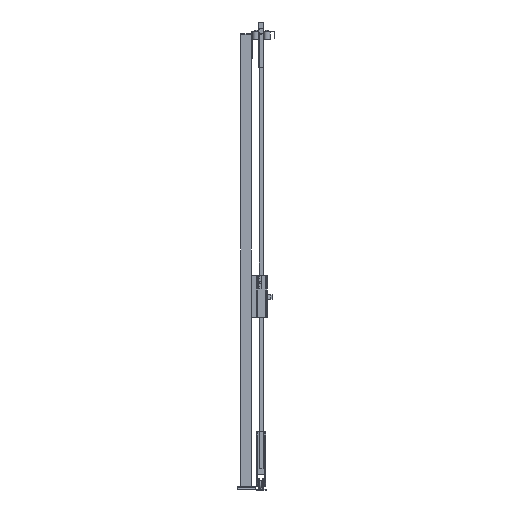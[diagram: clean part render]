
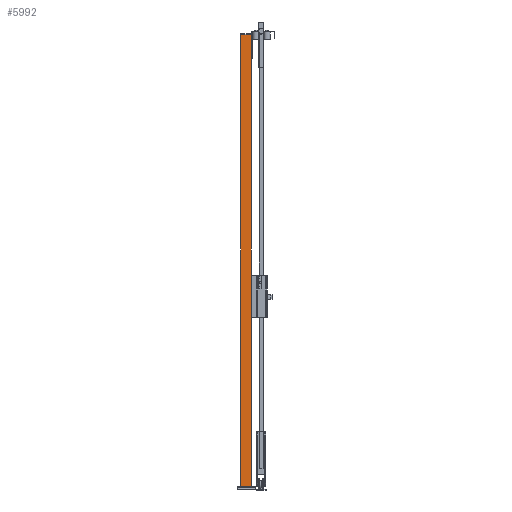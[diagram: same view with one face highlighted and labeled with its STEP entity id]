
A CAD part, left-side view. The second image highlights one B-rep face of the part: STEP entity #5992.
In plain terms, the highlighted planar face has unit normal (-1, 0, 0) as drawn and (0, 1, 0) by its records, which use the part's own axes.
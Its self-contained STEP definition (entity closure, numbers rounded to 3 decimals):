
#811=FACE_OUTER_BOUND('',#1114,.T.);
#1114=EDGE_LOOP('',(#4421,#4422,#4423,#4424));
#1581=LINE('',#8970,#2322);
#1587=LINE('',#8982,#2328);
#1590=LINE('',#8987,#2331);
#1591=LINE('',#8989,#2332);
#2322=VECTOR('',#7046,1.);
#2328=VECTOR('',#7054,1.);
#2331=VECTOR('',#7061,1.);
#2332=VECTOR('',#7064,1.);
#2936=VERTEX_POINT('',#8967);
#2937=VERTEX_POINT('',#8969);
#2939=VERTEX_POINT('',#8975);
#2942=VERTEX_POINT('',#8980);
#3530=EDGE_CURVE('',#2936,#2937,#1581,.T.);
#3536=EDGE_CURVE('',#2942,#2939,#1587,.T.);
#3539=EDGE_CURVE('',#2937,#2942,#1590,.T.);
#3540=EDGE_CURVE('',#2936,#2939,#1591,.T.);
#4421=ORIENTED_EDGE('',*,*,#3540,.T.);
#4422=ORIENTED_EDGE('',*,*,#3536,.F.);
#4423=ORIENTED_EDGE('',*,*,#3539,.F.);
#4424=ORIENTED_EDGE('',*,*,#3530,.F.);
#5739=PLANE('',#6344);
#5992=ADVANCED_FACE('',(#811),#5739,.F.);
#6344=AXIS2_PLACEMENT_3D('',#8988,#7062,#7063);
#7046=DIRECTION('',(-1.,0.,0.));
#7054=DIRECTION('',(1.,0.,0.));
#7061=DIRECTION('',(0.,0.,-1.));
#7062=DIRECTION('center_axis',(0.,-1.,0.));
#7063=DIRECTION('ref_axis',(0.,0.,-1.));
#7064=DIRECTION('',(0.,0.,-1.));
#8967=CARTESIAN_POINT('',(30.,30.,2520.));
#8969=CARTESIAN_POINT('',(-30.,30.,2520.));
#8970=CARTESIAN_POINT('',(0.,30.,2520.));
#8975=CARTESIAN_POINT('',(30.,30.,20.));
#8980=CARTESIAN_POINT('',(-30.,30.,20.));
#8982=CARTESIAN_POINT('',(0.,30.,20.));
#8987=CARTESIAN_POINT('',(-30.,30.,1270.));
#8988=CARTESIAN_POINT('Origin',(0.,30.,
1270.));
#8989=CARTESIAN_POINT('',(30.,30.,1270.));
